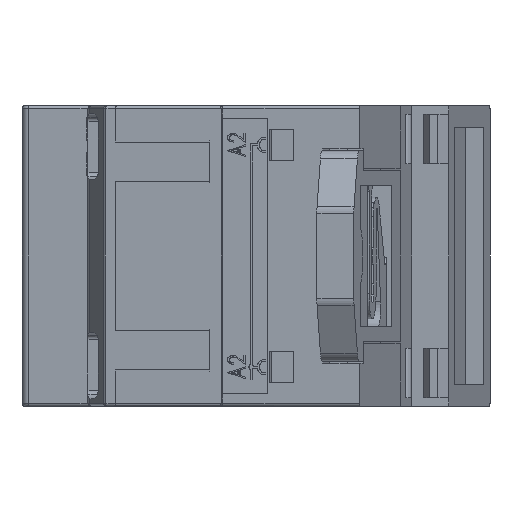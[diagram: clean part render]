
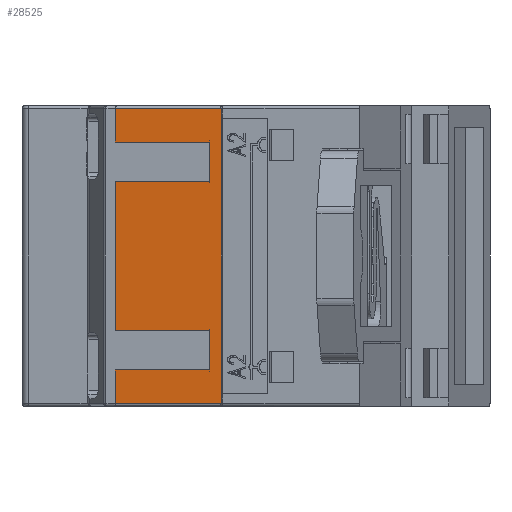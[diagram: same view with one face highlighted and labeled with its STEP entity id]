
A CAD part, left-side view. The second image highlights one B-rep face of the part: STEP entity #28525.
In plain terms, the highlighted planar face has unit normal (-0.991, 0.137, 0).
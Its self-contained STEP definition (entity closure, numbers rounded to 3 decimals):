
#1431 = VECTOR ( 'NONE', #15239, 1000. ) ;
#2037 = CARTESIAN_POINT ( 'NONE',  ( -40.889, 12.39, 26.33 ) ) ;
#3004 = VERTEX_POINT ( 'NONE', #53441 ) ;
#3191 = ORIENTED_EDGE ( 'NONE', *, *, #22993, .T. ) ;
#3632 = VERTEX_POINT ( 'NONE', #31551 ) ;
#3738 = LINE ( 'NONE', #35185, #18864 ) ;
#4041 = EDGE_LOOP ( 'NONE', ( #3191, #36519, #35542, #12186, #26396, #34138, #19545, #62555, #22378, #21696, #21699, #23270 ) ) ;
#5760 = VERTEX_POINT ( 'NONE', #7304 ) ;
#7304 = CARTESIAN_POINT ( 'NONE',  ( -39.393, 23.187, 26.63 ) ) ;
#7899 = LINE ( 'NONE', #42631, #58514 ) ;
#8033 = CARTESIAN_POINT ( 'NONE',  ( -39.393, 23.187, 49.23 ) ) ;
#9968 = DIRECTION ( 'NONE',  ( 0., 0., 1. ) ) ;
#10874 = LINE ( 'NONE', #32421, #36197 ) ;
#12186 = ORIENTED_EDGE ( 'NONE', *, *, #31273, .F. ) ;
#12266 = DIRECTION ( 'NONE',  ( -0.137, -0.991, 0. ) ) ;
#13635 = VERTEX_POINT ( 'NONE', #36290 ) ;
#15043 = CARTESIAN_POINT ( 'NONE',  ( -40.725, 13.579, 30.03 ) ) ;
#15239 = DIRECTION ( 'NONE',  ( 0., 0., -1. ) ) ;
#15810 = VERTEX_POINT ( 'NONE', #21969 ) ;
#16389 = VECTOR ( 'NONE', #25980, 1000. ) ;
#17012 = VECTOR ( 'NONE', #44537, 1000. ) ;
#17383 = DIRECTION ( 'NONE',  ( 0., 0., 1. ) ) ;
#18456 = DIRECTION ( 'NONE',  ( 0.137, 0.991, 0. ) ) ;
#18591 = CARTESIAN_POINT ( 'NONE',  ( -40.725, 13.579, 30.03 ) ) ;
#18864 = VECTOR ( 'NONE', #30785, 1000. ) ;
#19545 = ORIENTED_EDGE ( 'NONE', *, *, #57220, .T. ) ;
#20168 = LINE ( 'NONE', #64796, #17012 ) ;
#20191 = LINE ( 'NONE', #20870, #48729 ) ;
#20275 = VERTEX_POINT ( 'NONE', #31596 ) ;
#20484 = AXIS2_PLACEMENT_3D ( 'NONE', #51142, #20824, #56155 ) ;
#20824 = DIRECTION ( 'NONE',  ( -0.991, 0.137, 0. ) ) ;
#20870 = CARTESIAN_POINT ( 'NONE',  ( -40.725, 13.579, 49.23 ) ) ;
#21696 = ORIENTED_EDGE ( 'NONE', *, *, #22869, .T. ) ;
#21699 = ORIENTED_EDGE ( 'NONE', *, *, #52703, .T. ) ;
#21969 = CARTESIAN_POINT ( 'NONE',  ( -39.393, 23.187, 53.23 ) ) ;
#22378 = ORIENTED_EDGE ( 'NONE', *, *, #27145, .F. ) ;
#22497 = VERTEX_POINT ( 'NONE', #42139 ) ;
#22869 = EDGE_CURVE ( 'NONE', #39061, #39846, #29845, .T. ) ;
#22993 = EDGE_CURVE ( 'NONE', #13635, #29059, #47266, .T. ) ;
#23270 = ORIENTED_EDGE ( 'NONE', *, *, #35126, .T. ) ;
#23523 = CARTESIAN_POINT ( 'NONE',  ( -39.393, 23.187, 56.63 ) ) ;
#25932 = DIRECTION ( 'NONE',  ( 0.137, 0.991, 0. ) ) ;
#25980 = DIRECTION ( 'NONE',  ( 0.137, 0.991, 0. ) ) ;
#26396 = ORIENTED_EDGE ( 'NONE', *, *, #29294, .F. ) ;
#27077 = CARTESIAN_POINT ( 'NONE',  ( -39.393, 23.187, 56.63 ) ) ;
#27145 = EDGE_CURVE ( 'NONE', #39061, #3004, #64323, .T. ) ;
#28107 = VERTEX_POINT ( 'NONE', #27077 ) ;
#28525 = ADVANCED_FACE ( 'NONE', ( #52351 ), #61006, .T. ) ;
#29059 = VERTEX_POINT ( 'NONE', #55447 ) ;
#29294 = EDGE_CURVE ( 'NONE', #3632, #20275, #7899, .T. ) ;
#29845 = LINE ( 'NONE', #46152, #16389 ) ;
#30785 = DIRECTION ( 'NONE',  ( 0.137, 0.991, 0. ) ) ;
#31273 = EDGE_CURVE ( 'NONE', #20275, #15810, #3738, .T. ) ;
#31551 = CARTESIAN_POINT ( 'NONE',  ( -40.725, 13.579, 49.23 ) ) ;
#31596 = CARTESIAN_POINT ( 'NONE',  ( -40.725, 13.579, 53.23 ) ) ;
#32421 = CARTESIAN_POINT ( 'NONE',  ( -40.889, 12.39, 26.63 ) ) ;
#33769 = VECTOR ( 'NONE', #17383, 1000. ) ;
#33770 = LINE ( 'NONE', #51683, #60592 ) ;
#34138 = ORIENTED_EDGE ( 'NONE', *, *, #55771, .T. ) ;
#34613 = EDGE_CURVE ( 'NONE', #29059, #28107, #38540, .T. ) ;
#35126 = EDGE_CURVE ( 'NONE', #5760, #13635, #10874, .T. ) ;
#35185 = CARTESIAN_POINT ( 'NONE',  ( -40.725, 13.579, 53.23 ) ) ;
#35542 = ORIENTED_EDGE ( 'NONE', *, *, #44876, .T. ) ;
#36197 = VECTOR ( 'NONE', #12266, 1000. ) ;
#36290 = CARTESIAN_POINT ( 'NONE',  ( -40.889, 12.39, 26.63 ) ) ;
#36519 = ORIENTED_EDGE ( 'NONE', *, *, #34613, .T. ) ;
#37479 = VECTOR ( 'NONE', #9968, 1000. ) ;
#38540 = LINE ( 'NONE', #23523, #63793 ) ;
#39061 = VERTEX_POINT ( 'NONE', #18591 ) ;
#39846 = VERTEX_POINT ( 'NONE', #54187 ) ;
#42139 = CARTESIAN_POINT ( 'NONE',  ( -39.393, 23.187, 34.03 ) ) ;
#42398 = DIRECTION ( 'NONE',  ( 0., 0., 1. ) ) ;
#42631 = CARTESIAN_POINT ( 'NONE',  ( -40.725, 13.579, 53.23 ) ) ;
#43759 = VECTOR ( 'NONE', #58860, 1000. ) ;
#44537 = DIRECTION ( 'NONE',  ( 0., 0., -1. ) ) ;
#44876 = EDGE_CURVE ( 'NONE', #28107, #15810, #20168, .T. ) ;
#45583 = CARTESIAN_POINT ( 'NONE',  ( -39.393, 23.187, 26.33 ) ) ;
#46152 = CARTESIAN_POINT ( 'NONE',  ( -40.725, 13.579, 30.03 ) ) ;
#47266 = LINE ( 'NONE', #2037, #33769 ) ;
#48729 = VECTOR ( 'NONE', #25932, 1000. ) ;
#49488 = EDGE_CURVE ( 'NONE', #3004, #22497, #33770, .T. ) ;
#51142 = CARTESIAN_POINT ( 'NONE',  ( -40.889, 12.39, 26.33 ) ) ;
#51683 = CARTESIAN_POINT ( 'NONE',  ( -40.725, 13.579, 34.03 ) ) ;
#52351 = FACE_OUTER_BOUND ( 'NONE', #4041, .T. ) ;
#52703 = EDGE_CURVE ( 'NONE', #39846, #5760, #53740, .T. ) ;
#53441 = CARTESIAN_POINT ( 'NONE',  ( -40.725, 13.579, 34.03 ) ) ;
#53740 = LINE ( 'NONE', #45583, #1431 ) ;
#53819 = CARTESIAN_POINT ( 'NONE',  ( -39.393, 23.187, 26.33 ) ) ;
#54187 = CARTESIAN_POINT ( 'NONE',  ( -39.393, 23.187, 30.03 ) ) ;
#55447 = CARTESIAN_POINT ( 'NONE',  ( -40.889, 12.39, 56.63 ) ) ;
#55771 = EDGE_CURVE ( 'NONE', #3632, #60474, #20191, .T. ) ;
#56155 = DIRECTION ( 'NONE',  ( -0.137, -0.991, 0. ) ) ;
#56706 = DIRECTION ( 'NONE',  ( 0.137, 0.991, 0. ) ) ;
#57138 = LINE ( 'NONE', #53819, #43759 ) ;
#57220 = EDGE_CURVE ( 'NONE', #60474, #22497, #57138, .T. ) ;
#58514 = VECTOR ( 'NONE', #42398, 1000. ) ;
#58860 = DIRECTION ( 'NONE',  ( 0., 0., -1. ) ) ;
#60474 = VERTEX_POINT ( 'NONE', #8033 ) ;
#60592 = VECTOR ( 'NONE', #56706, 1000. ) ;
#61006 = PLANE ( 'NONE',  #20484 ) ;
#62555 = ORIENTED_EDGE ( 'NONE', *, *, #49488, .F. ) ;
#63793 = VECTOR ( 'NONE', #18456, 1000. ) ;
#64323 = LINE ( 'NONE', #15043, #37479 ) ;
#64796 = CARTESIAN_POINT ( 'NONE',  ( -39.393, 23.187, 26.33 ) ) ;
